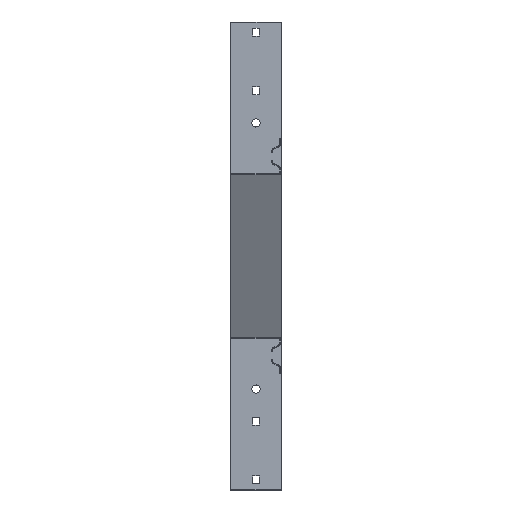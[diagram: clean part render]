
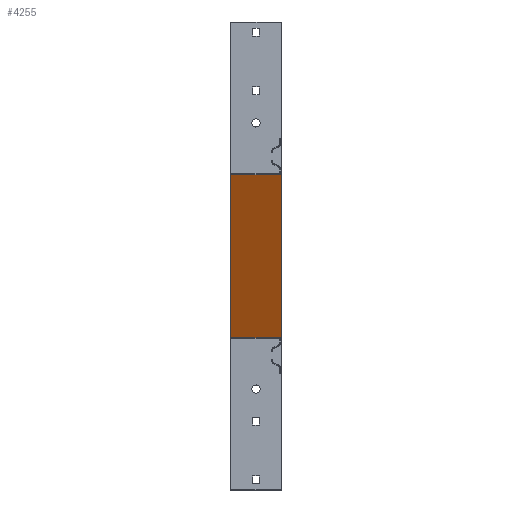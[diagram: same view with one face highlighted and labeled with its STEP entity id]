
A CAD part, left-side view. The second image highlights one B-rep face of the part: STEP entity #4255.
In plain terms, the highlighted planar face has unit normal (-0.881, 0, -0.472) as drawn and (0.881, 0, -0.472) by its records, which use the part's own axes.
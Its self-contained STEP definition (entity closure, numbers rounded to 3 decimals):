
#104 = FACE_OUTER_BOUND ( 'NONE', #8668, .T. ) ;
#364 = VECTOR ( 'NONE', #534, 1000. ) ;
#534 = DIRECTION ( 'NONE',  ( -0.472, 0., -0.881 ) ) ;
#763 = PLANE ( 'NONE',  #3850 ) ;
#868 = VERTEX_POINT ( 'NONE', #8536 ) ;
#878 = LINE ( 'NONE', #7539, #6934 ) ;
#1151 = ORIENTED_EDGE ( 'NONE', *, *, #7401, .T. ) ;
#1906 = ORIENTED_EDGE ( 'NONE', *, *, #2598, .F. ) ;
#1909 = VERTEX_POINT ( 'NONE', #3631 ) ;
#2278 = DIRECTION ( 'NONE',  ( -0.472, 0., -0.881 ) ) ;
#2294 = CARTESIAN_POINT ( 'NONE',  ( 301.763, 87., -0.944 ) ) ;
#2553 = EDGE_CURVE ( 'NONE', #868, #3655, #878, .T. ) ;
#2566 = VECTOR ( 'NONE', #3557, 1000. ) ;
#2598 = EDGE_CURVE ( 'NONE', #4989, #868, #8246, .T. ) ;
#2822 = DIRECTION ( 'NONE',  ( 0.472, 0., 0.881 ) ) ;
#3165 = LINE ( 'NONE', #7805, #3803 ) ;
#3343 = CARTESIAN_POINT ( 'NONE',  ( 301.585, 0., -1.276 ) ) ;
#3557 = DIRECTION ( 'NONE',  ( 0., 1., 0. ) ) ;
#3631 = CARTESIAN_POINT ( 'NONE',  ( 152.178, 0., -280.17 ) ) ;
#3655 = VERTEX_POINT ( 'NONE', #7371 ) ;
#3803 = VECTOR ( 'NONE', #8515, 1000. ) ;
#3850 = AXIS2_PLACEMENT_3D ( 'NONE', #2294, #6270, #2822 ) ;
#4255 = ADVANCED_FACE ( 'NONE', ( #104 ), #763, .F. ) ;
#4924 = EDGE_CURVE ( 'NONE', #4989, #1909, #6669, .T. ) ;
#4989 = VERTEX_POINT ( 'NONE', #3343 ) ;
#6270 = DIRECTION ( 'NONE',  ( -0.881, 0., 0.472 ) ) ;
#6276 = ORIENTED_EDGE ( 'NONE', *, *, #4924, .T. ) ;
#6669 = LINE ( 'NONE', #7326, #364 ) ;
#6934 = VECTOR ( 'NONE', #2278, 1000. ) ;
#7011 = ORIENTED_EDGE ( 'NONE', *, *, #2553, .F. ) ;
#7326 = CARTESIAN_POINT ( 'NONE',  ( 301.763, 0., -0.944 ) ) ;
#7371 = CARTESIAN_POINT ( 'NONE',  ( 152.178, 87., -280.17 ) ) ;
#7401 = EDGE_CURVE ( 'NONE', #1909, #3655, #3165, .T. ) ;
#7539 = CARTESIAN_POINT ( 'NONE',  ( 301.763, 87., -0.944 ) ) ;
#7581 = CARTESIAN_POINT ( 'NONE',  ( 301.585, 0., -1.276 ) ) ;
#7805 = CARTESIAN_POINT ( 'NONE',  ( 152.178, 0., -280.17 ) ) ;
#8246 = LINE ( 'NONE', #7581, #2566 ) ;
#8515 = DIRECTION ( 'NONE',  ( 0., 1., 0. ) ) ;
#8536 = CARTESIAN_POINT ( 'NONE',  ( 301.585, 87., -1.276 ) ) ;
#8668 = EDGE_LOOP ( 'NONE', ( #6276, #1151, #7011, #1906 ) ) ;
